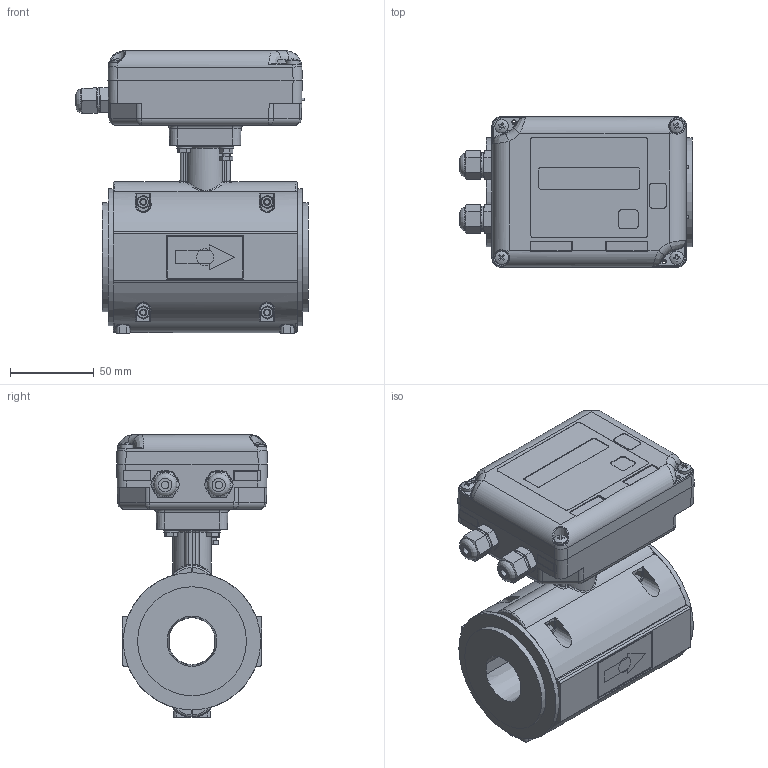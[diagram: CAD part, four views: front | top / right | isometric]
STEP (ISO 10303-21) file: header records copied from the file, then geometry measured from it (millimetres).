
FILE_DESCRIPTION(('STEP AP242'), '1');
FILE_NAME('1_ØÊÑÄ.407212.032-003 Ðàñõîäîìåð-ñ÷¸ò÷èê ýëåêòðîìàãíèòíûé Âçë¸ò èñïîëíåíèå Ëàéò Ì', '', ('UNSPECIFIED'), ('UNSPECIFIED'), 'ASCON STEP Converter 1.6', 'ASCON Math Kernel', '');
FILE_SCHEMA(('AP242_MANAGED_MODEL_BASED_3D_ENGINEERING_MIM_LF { 1 0 10303 442 1 1 4 }'));
Length unit declared in the file: millimetre
Products named in the file (1): 婽挭.407212.032-003.03-003.06
Bounding box: 138.88 x 90 x 168.9 mm (x, y, z)
Volume: 443798.1 mm3; surface area: 250605.1 mm2
Topology: 58 solids, 58 shells, 2627 faces, 6311 edges, 3816 vertices
Faces by surface type: plane 965, cylinder 732, bspline 413, cone 303, torus 160, sphere 54
Full cylindrical faces by diameter (mm): 2 x4, 2.3 x9, 2.4 x2, 3 x2, 3.242 x13, 3.422 x4, 3.6 x2, 4 x54, 4.3 x8, 4.5 x20, 5.5 x8, 6 x2, 7 x20, 7.5 x4, 7.65 x1, 8 x7, 9 x7, 10 x1, 12 x6, 12.2 x2, 12.5 x2, 15 x2, 16.5 x2, 17 x1, 18 x1, 65 x2, 72 x2, 75 x2, 76 x4, 82 x2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
Entity records: 183404 total; most frequent: CARTESIAN_POINT 108033, ORIENTED_EDGE 11426, DIRECTION 9595, EDGE_CURVE 5713, VERTEX_POINT 3765, AXIS2_PLACEMENT_3D 3659, EDGE_LOOP 3336, COLOUR_RGB 2685
